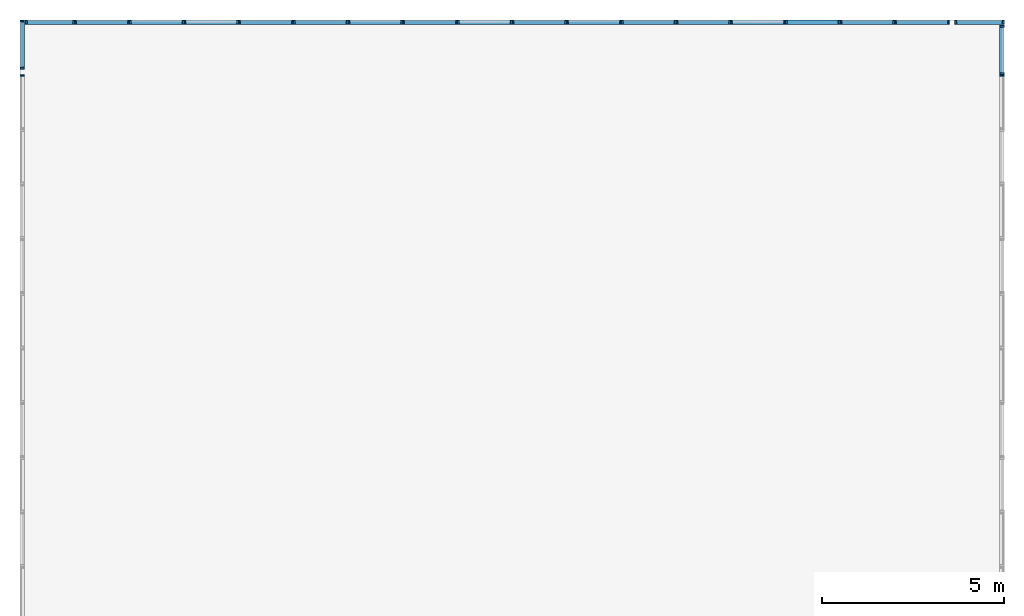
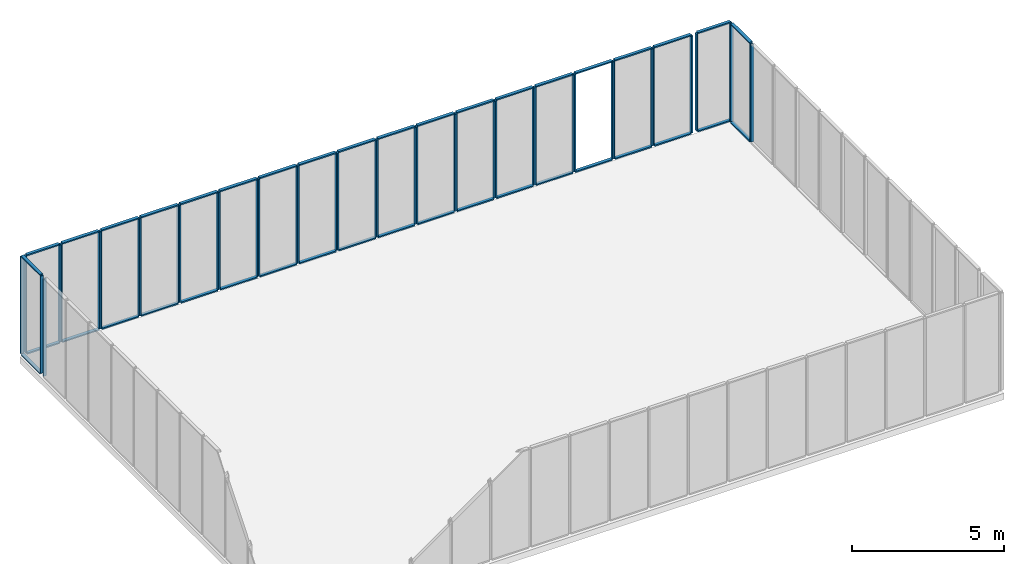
# One storey, part 3 of 4: 82 members.
"""IFC4 building model written with IfcOpenShell, lengths in metres."""

from ifc_helpers import new_model, si_unit, frame, origin_with_axes, place, context, subcontext, project, spatial, indexed_curve, outline, extrude, material, element, save


model = new_model("IFC4")

# Units and contexts
model_context = context("Model", 3, precision=1e-05, world=origin_with_axes())
body_context = subcontext(model_context, "Body", "Model", "MODEL_VIEW")
ifc_project = project(units=[si_unit("AREAUNIT", "SQUARE_METRE"), si_unit("VOLUMEUNIT", "CUBIC_METRE"), si_unit("LENGTHUNIT", "METRE")], contexts=[model_context])

# Site, building, storey
site = spatial("IfcSite", under=ifc_project, Name="Synthetic Site")
building = spatial("IfcBuilding", under=site, Name="Complex Tower")
storey_placement = place(None, frame((0.0, 0.0, 8.4), z_axis=(0.0, 0.0, 1.0), x_axis=(1.0, 0.0, 0.0)))
storey = spatial("IfcBuildingStorey", under=building, at=storey_placement, Name="L03", Elevation=8.4)

# Members
ifc_material = material(Name="Aluminium")
for number, where, z_axis, x_axis, name in (
    (1, (27.0, 16.45, 0.15000000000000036), (0.0, 0.0, 1.0), (6.123233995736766e-17, 1.0, 0.0), "CT-L03-E-011-MR"),
    (2, (27.0, 16.5, 0.15000000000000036), (0.0, 0.0, 1.0), (6.123233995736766e-17, 1.0, 0.0), "CT-L03-E-012-ML"),
    (3, (27.0, 17.8, 0.15000000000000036), (0.0, 0.0, 1.0), (6.123233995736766e-17, 1.0, 0.0), "CT-L03-E-012-MR"),
):
    element("IfcMember", number, at=place(storey_placement, frame(where, z_axis=z_axis, x_axis=x_axis)), inside=storey, material=ifc_material, Name=name, PredefinedType="MULLION", context=body_context, shape_type="SweptSolid", body=[
        extrude(outline(indexed_curve([(0.0, 0.0), (0.0, 0.12), (0.05, 0.12), (0.05, 0.0), (0.0, 0.0)], self_intersect=False)), origin_with_axes(), (0.0, 0.0, 1.0), 3.9000000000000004),
    ])
for number, where, z_axis, x_axis, name in (
    (4, (27.0, 16.55, 0.09999999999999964), (0.0, 0.0, 1.0), (6.123233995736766e-17, 1.0, 0.0), "CT-L03-E-012-FB"),
    (5, (27.0, 16.55, 4.050000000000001), (0.0, 0.0, 1.0), (6.123233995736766e-17, 1.0, 0.0), "CT-L03-E-012-FT"),
):
    element("IfcMember", number, at=place(storey_placement, frame(where, z_axis=z_axis, x_axis=x_axis)), inside=storey, material=ifc_material, Name=name, PredefinedType="MULLION", context=body_context, shape_type="SweptSolid", body=[
        extrude(outline(indexed_curve([(0.0, 0.0), (0.0, 0.12), (1.25, 0.12), (1.25, 0.0), (0.0, 0.0)], self_intersect=False)), origin_with_axes(), (0.0, 0.0, 1.0), 0.05),
    ])
for number, where, z_axis, x_axis, name in (
    (6, (27.0, 18.0, 0.15000000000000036), (0.0, 0.0, 1.0), (-1.0, 1.2246467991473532e-16, 0.0), "CT-L03-N-001-ML"),
    (7, (25.7, 18.0, 0.15000000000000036), (0.0, 0.0, 1.0), (-1.0, 1.2246467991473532e-16, 0.0), "CT-L03-N-001-MR"),
):
    element("IfcMember", number, at=place(storey_placement, frame(where, z_axis=z_axis, x_axis=x_axis)), inside=storey, material=ifc_material, Name=name, PredefinedType="MULLION", context=body_context, shape_type="SweptSolid", body=[
        extrude(outline(indexed_curve([(0.0, 0.0), (0.0, 0.12), (0.05, 0.12), (0.05, 0.0), (0.0, 0.0)], self_intersect=False)), origin_with_axes(), (0.0, 0.0, 1.0), 3.9000000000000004),
    ])
for number, where, z_axis, x_axis, name in (
    (8, (26.95, 18.0, 0.09999999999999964), (0.0, 0.0, 1.0), (-1.0, 1.2246467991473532e-16, 0.0), "CT-L03-N-001-FB"),
    (9, (26.95, 18.0, 4.050000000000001), (0.0, 0.0, 1.0), (-1.0, 1.2246467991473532e-16, 0.0), "CT-L03-N-001-FT"),
):
    element("IfcMember", number, at=place(storey_placement, frame(where, z_axis=z_axis, x_axis=x_axis)), inside=storey, material=ifc_material, Name=name, PredefinedType="MULLION", context=body_context, shape_type="SweptSolid", body=[
        extrude(outline(indexed_curve([(0.0, 0.0), (0.0, 0.12), (1.25, 0.12), (1.25, 0.0), (0.0, 0.0)], self_intersect=False)), origin_with_axes(), (0.0, 0.0, 1.0), 0.05),
    ])
for number, where, z_axis, x_axis, name in (
    (10, (25.5, 18.0, 0.15000000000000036), (0.0, 0.0, 1.0), (-1.0, 1.2246467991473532e-16, 0.0), "CT-L03-N-002-ML"),
    (11, (24.05, 18.0, 0.15000000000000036), (0.0, 0.0, 1.0), (-1.0, 1.2246467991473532e-16, 0.0), "CT-L03-N-002-MR"),
):
    element("IfcMember", number, at=place(storey_placement, frame(where, z_axis=z_axis, x_axis=x_axis)), inside=storey, material=ifc_material, Name=name, PredefinedType="MULLION", context=body_context, shape_type="SweptSolid", body=[
        extrude(outline(indexed_curve([(0.0, 0.0), (0.0, 0.12), (0.05, 0.12), (0.05, 0.0), (0.0, 0.0)], self_intersect=False)), origin_with_axes(), (0.0, 0.0, 1.0), 3.9000000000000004),
    ])
for number, where, z_axis, x_axis, name in (
    (12, (25.45, 18.0, 0.09999999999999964), (0.0, 0.0, 1.0), (-1.0, 1.2246467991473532e-16, 0.0), "CT-L03-N-002-FB"),
    (13, (25.45, 18.0, 4.050000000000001), (0.0, 0.0, 1.0), (-1.0, 1.2246467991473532e-16, 0.0), "CT-L03-N-002-FT"),
):
    element("IfcMember", number, at=place(storey_placement, frame(where, z_axis=z_axis, x_axis=x_axis)), inside=storey, material=ifc_material, Name=name, PredefinedType="MULLION", context=body_context, shape_type="SweptSolid", body=[
        extrude(outline(indexed_curve([(0.0, 0.0), (0.0, 0.12), (1.4, 0.12), (1.4, 0.0), (0.0, 0.0)], self_intersect=False)), origin_with_axes(), (0.0, 0.0, 1.0), 0.05),
    ])
for number, where, z_axis, x_axis, name in (
    (14, (24.0, 18.0, 0.15000000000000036), (0.0, 0.0, 1.0), (-1.0, 1.2246467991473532e-16, 0.0), "CT-L03-N-003-ML"),
    (15, (22.55, 18.0, 0.15000000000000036), (0.0, 0.0, 1.0), (-1.0, 1.2246467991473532e-16, 0.0), "CT-L03-N-003-MR"),
):
    element("IfcMember", number, at=place(storey_placement, frame(where, z_axis=z_axis, x_axis=x_axis)), inside=storey, material=ifc_material, Name=name, PredefinedType="MULLION", context=body_context, shape_type="SweptSolid", body=[
        extrude(outline(indexed_curve([(0.0, 0.0), (0.0, 0.12), (0.05, 0.12), (0.05, 0.0), (0.0, 0.0)], self_intersect=False)), origin_with_axes(), (0.0, 0.0, 1.0), 3.9000000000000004),
    ])
for number, where, z_axis, x_axis, name in (
    (16, (23.95, 18.0, 0.09999999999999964), (0.0, 0.0, 1.0), (-1.0, 1.2246467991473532e-16, 0.0), "CT-L03-N-003-FB"),
    (17, (23.95, 18.0, 4.050000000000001), (0.0, 0.0, 1.0), (-1.0, 1.2246467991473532e-16, 0.0), "CT-L03-N-003-FT"),
):
    element("IfcMember", number, at=place(storey_placement, frame(where, z_axis=z_axis, x_axis=x_axis)), inside=storey, material=ifc_material, Name=name, PredefinedType="MULLION", context=body_context, shape_type="SweptSolid", body=[
        extrude(outline(indexed_curve([(0.0, 0.0), (0.0, 0.12), (1.4, 0.12), (1.4, 0.0), (0.0, 0.0)], self_intersect=False)), origin_with_axes(), (0.0, 0.0, 1.0), 0.05),
    ])
for number, where, z_axis, x_axis, name in (
    (18, (22.5, 18.0, 0.15000000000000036), (0.0, 0.0, 1.0), (-1.0, 1.2246467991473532e-16, 0.0), "CT-L03-N-004-ML"),
    (19, (21.05, 18.0, 0.15000000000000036), (0.0, 0.0, 1.0), (-1.0, 1.2246467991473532e-16, 0.0), "CT-L03-N-004-MR"),
):
    element("IfcMember", number, at=place(storey_placement, frame(where, z_axis=z_axis, x_axis=x_axis)), inside=storey, material=ifc_material, Name=name, PredefinedType="MULLION", context=body_context, shape_type="SweptSolid", body=[
        extrude(outline(indexed_curve([(0.0, 0.0), (0.0, 0.12), (0.05, 0.12), (0.05, 0.0), (0.0, 0.0)], self_intersect=False)), origin_with_axes(), (0.0, 0.0, 1.0), 3.9000000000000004),
    ])
for number, where, z_axis, x_axis, name in (
    (20, (22.45, 18.0, 0.09999999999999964), (0.0, 0.0, 1.0), (-1.0, 1.2246467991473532e-16, 0.0), "CT-L03-N-004-FB"),
    (21, (22.45, 18.0, 4.050000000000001), (0.0, 0.0, 1.0), (-1.0, 1.2246467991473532e-16, 0.0), "CT-L03-N-004-FT"),
):
    element("IfcMember", number, at=place(storey_placement, frame(where, z_axis=z_axis, x_axis=x_axis)), inside=storey, material=ifc_material, Name=name, PredefinedType="MULLION", context=body_context, shape_type="SweptSolid", body=[
        extrude(outline(indexed_curve([(0.0, 0.0), (0.0, 0.12), (1.4, 0.12), (1.4, 0.0), (0.0, 0.0)], self_intersect=False)), origin_with_axes(), (0.0, 0.0, 1.0), 0.05),
    ])
for number, where, z_axis, x_axis, name in (
    (22, (21.0, 18.0, 0.15000000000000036), (0.0, 0.0, 1.0), (-1.0, 1.2246467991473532e-16, 0.0), "CT-L03-N-005-ML"),
    (23, (19.55, 18.0, 0.15000000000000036), (0.0, 0.0, 1.0), (-1.0, 1.2246467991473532e-16, 0.0), "CT-L03-N-005-MR"),
):
    element("IfcMember", number, at=place(storey_placement, frame(where, z_axis=z_axis, x_axis=x_axis)), inside=storey, material=ifc_material, Name=name, PredefinedType="MULLION", context=body_context, shape_type="SweptSolid", body=[
        extrude(outline(indexed_curve([(0.0, 0.0), (0.0, 0.12), (0.05, 0.12), (0.05, 0.0), (0.0, 0.0)], self_intersect=False)), origin_with_axes(), (0.0, 0.0, 1.0), 3.9000000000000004),
    ])
for number, where, z_axis, x_axis, name in (
    (24, (20.95, 18.0, 0.09999999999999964), (0.0, 0.0, 1.0), (-1.0, 1.2246467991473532e-16, 0.0), "CT-L03-N-005-FB"),
    (25, (20.95, 18.0, 4.050000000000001), (0.0, 0.0, 1.0), (-1.0, 1.2246467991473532e-16, 0.0), "CT-L03-N-005-FT"),
):
    element("IfcMember", number, at=place(storey_placement, frame(where, z_axis=z_axis, x_axis=x_axis)), inside=storey, material=ifc_material, Name=name, PredefinedType="MULLION", context=body_context, shape_type="SweptSolid", body=[
        extrude(outline(indexed_curve([(0.0, 0.0), (0.0, 0.12), (1.4, 0.12), (1.4, 0.0), (0.0, 0.0)], self_intersect=False)), origin_with_axes(), (0.0, 0.0, 1.0), 0.05),
    ])
for number, where, z_axis, x_axis, name in (
    (26, (19.5, 18.0, 0.15000000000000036), (0.0, 0.0, 1.0), (-1.0, 1.2246467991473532e-16, 0.0), "CT-L03-N-006-ML"),
    (27, (18.05, 18.0, 0.15000000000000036), (0.0, 0.0, 1.0), (-1.0, 1.2246467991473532e-16, 0.0), "CT-L03-N-006-MR"),
):
    element("IfcMember", number, at=place(storey_placement, frame(where, z_axis=z_axis, x_axis=x_axis)), inside=storey, material=ifc_material, Name=name, PredefinedType="MULLION", context=body_context, shape_type="SweptSolid", body=[
        extrude(outline(indexed_curve([(0.0, 0.0), (0.0, 0.12), (0.05, 0.12), (0.05, 0.0), (0.0, 0.0)], self_intersect=False)), origin_with_axes(), (0.0, 0.0, 1.0), 3.9000000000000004),
    ])
for number, where, z_axis, x_axis, name in (
    (28, (19.45, 18.0, 0.09999999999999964), (0.0, 0.0, 1.0), (-1.0, 1.2246467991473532e-16, 0.0), "CT-L03-N-006-FB"),
    (29, (19.45, 18.0, 4.050000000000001), (0.0, 0.0, 1.0), (-1.0, 1.2246467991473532e-16, 0.0), "CT-L03-N-006-FT"),
):
    element("IfcMember", number, at=place(storey_placement, frame(where, z_axis=z_axis, x_axis=x_axis)), inside=storey, material=ifc_material, Name=name, PredefinedType="MULLION", context=body_context, shape_type="SweptSolid", body=[
        extrude(outline(indexed_curve([(0.0, 0.0), (0.0, 0.12), (1.4, 0.12), (1.4, 0.0), (0.0, 0.0)], self_intersect=False)), origin_with_axes(), (0.0, 0.0, 1.0), 0.05),
    ])
for number, where, z_axis, x_axis, name in (
    (30, (18.0, 18.0, 0.15000000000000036), (0.0, 0.0, 1.0), (-1.0, 1.2246467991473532e-16, 0.0), "CT-L03-N-007-ML"),
    (31, (16.55, 18.0, 0.15000000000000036), (0.0, 0.0, 1.0), (-1.0, 1.2246467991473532e-16, 0.0), "CT-L03-N-007-MR"),
):
    element("IfcMember", number, at=place(storey_placement, frame(where, z_axis=z_axis, x_axis=x_axis)), inside=storey, material=ifc_material, Name=name, PredefinedType="MULLION", context=body_context, shape_type="SweptSolid", body=[
        extrude(outline(indexed_curve([(0.0, 0.0), (0.0, 0.12), (0.05, 0.12), (0.05, 0.0), (0.0, 0.0)], self_intersect=False)), origin_with_axes(), (0.0, 0.0, 1.0), 3.9000000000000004),
    ])
for number, where, z_axis, x_axis, name in (
    (32, (17.95, 18.0, 0.09999999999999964), (0.0, 0.0, 1.0), (-1.0, 1.2246467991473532e-16, 0.0), "CT-L03-N-007-FB"),
    (33, (17.95, 18.0, 4.050000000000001), (0.0, 0.0, 1.0), (-1.0, 1.2246467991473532e-16, 0.0), "CT-L03-N-007-FT"),
):
    element("IfcMember", number, at=place(storey_placement, frame(where, z_axis=z_axis, x_axis=x_axis)), inside=storey, material=ifc_material, Name=name, PredefinedType="MULLION", context=body_context, shape_type="SweptSolid", body=[
        extrude(outline(indexed_curve([(0.0, 0.0), (0.0, 0.12), (1.4, 0.12), (1.4, 0.0), (0.0, 0.0)], self_intersect=False)), origin_with_axes(), (0.0, 0.0, 1.0), 0.05),
    ])
for number, where, z_axis, x_axis, name in (
    (34, (16.5, 18.0, 0.15000000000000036), (0.0, 0.0, 1.0), (-1.0, 1.2246467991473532e-16, 0.0), "CT-L03-N-008-ML"),
    (35, (15.049999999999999, 18.0, 0.15000000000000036), (0.0, 0.0, 1.0), (-1.0, 1.2246467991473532e-16, 0.0), "CT-L03-N-008-MR"),
):
    element("IfcMember", number, at=place(storey_placement, frame(where, z_axis=z_axis, x_axis=x_axis)), inside=storey, material=ifc_material, Name=name, PredefinedType="MULLION", context=body_context, shape_type="SweptSolid", body=[
        extrude(outline(indexed_curve([(0.0, 0.0), (0.0, 0.12), (0.05, 0.12), (0.05, 0.0), (0.0, 0.0)], self_intersect=False)), origin_with_axes(), (0.0, 0.0, 1.0), 3.9000000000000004),
    ])
for number, where, z_axis, x_axis, name in (
    (36, (16.45, 18.0, 0.09999999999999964), (0.0, 0.0, 1.0), (-1.0, 1.2246467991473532e-16, 0.0), "CT-L03-N-008-FB"),
    (37, (16.45, 18.0, 4.050000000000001), (0.0, 0.0, 1.0), (-1.0, 1.2246467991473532e-16, 0.0), "CT-L03-N-008-FT"),
):
    element("IfcMember", number, at=place(storey_placement, frame(where, z_axis=z_axis, x_axis=x_axis)), inside=storey, material=ifc_material, Name=name, PredefinedType="MULLION", context=body_context, shape_type="SweptSolid", body=[
        extrude(outline(indexed_curve([(0.0, 0.0), (0.0, 0.12), (1.4, 0.12), (1.4, 0.0), (0.0, 0.0)], self_intersect=False)), origin_with_axes(), (0.0, 0.0, 1.0), 0.05),
    ])
for number, where, z_axis, x_axis, name in (
    (38, (15.0, 18.0, 0.15000000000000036), (0.0, 0.0, 1.0), (-1.0, 1.2246467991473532e-16, 0.0), "CT-L03-N-009-ML"),
    (39, (13.549999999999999, 18.0, 0.15000000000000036), (0.0, 0.0, 1.0), (-1.0, 1.2246467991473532e-16, 0.0), "CT-L03-N-009-MR"),
):
    element("IfcMember", number, at=place(storey_placement, frame(where, z_axis=z_axis, x_axis=x_axis)), inside=storey, material=ifc_material, Name=name, PredefinedType="MULLION", context=body_context, shape_type="SweptSolid", body=[
        extrude(outline(indexed_curve([(0.0, 0.0), (0.0, 0.12), (0.05, 0.12), (0.05, 0.0), (0.0, 0.0)], self_intersect=False)), origin_with_axes(), (0.0, 0.0, 1.0), 3.9000000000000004),
    ])
for number, where, z_axis, x_axis, name in (
    (40, (14.95, 18.0, 0.09999999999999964), (0.0, 0.0, 1.0), (-1.0, 1.2246467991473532e-16, 0.0), "CT-L03-N-009-FB"),
    (41, (14.95, 18.0, 4.050000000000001), (0.0, 0.0, 1.0), (-1.0, 1.2246467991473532e-16, 0.0), "CT-L03-N-009-FT"),
):
    element("IfcMember", number, at=place(storey_placement, frame(where, z_axis=z_axis, x_axis=x_axis)), inside=storey, material=ifc_material, Name=name, PredefinedType="MULLION", context=body_context, shape_type="SweptSolid", body=[
        extrude(outline(indexed_curve([(0.0, 0.0), (0.0, 0.12), (1.4, 0.12), (1.4, 0.0), (0.0, 0.0)], self_intersect=False)), origin_with_axes(), (0.0, 0.0, 1.0), 0.05),
    ])
for number, where, z_axis, x_axis, name in (
    (42, (13.5, 18.0, 0.15000000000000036), (0.0, 0.0, 1.0), (-1.0, 1.2246467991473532e-16, 0.0), "CT-L03-N-010-ML"),
    (43, (12.049999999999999, 18.0, 0.15000000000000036), (0.0, 0.0, 1.0), (-1.0, 1.2246467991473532e-16, 0.0), "CT-L03-N-010-MR"),
):
    element("IfcMember", number, at=place(storey_placement, frame(where, z_axis=z_axis, x_axis=x_axis)), inside=storey, material=ifc_material, Name=name, PredefinedType="MULLION", context=body_context, shape_type="SweptSolid", body=[
        extrude(outline(indexed_curve([(0.0, 0.0), (0.0, 0.12), (0.05, 0.12), (0.05, 0.0), (0.0, 0.0)], self_intersect=False)), origin_with_axes(), (0.0, 0.0, 1.0), 3.9000000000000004),
    ])
for number, where, z_axis, x_axis, name in (
    (44, (13.45, 18.0, 0.09999999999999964), (0.0, 0.0, 1.0), (-1.0, 1.2246467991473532e-16, 0.0), "CT-L03-N-010-FB"),
    (45, (13.45, 18.0, 4.050000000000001), (0.0, 0.0, 1.0), (-1.0, 1.2246467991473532e-16, 0.0), "CT-L03-N-010-FT"),
):
    element("IfcMember", number, at=place(storey_placement, frame(where, z_axis=z_axis, x_axis=x_axis)), inside=storey, material=ifc_material, Name=name, PredefinedType="MULLION", context=body_context, shape_type="SweptSolid", body=[
        extrude(outline(indexed_curve([(0.0, 0.0), (0.0, 0.12), (1.4, 0.12), (1.4, 0.0), (0.0, 0.0)], self_intersect=False)), origin_with_axes(), (0.0, 0.0, 1.0), 0.05),
    ])
for number, where, z_axis, x_axis, name in (
    (46, (12.0, 18.000000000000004, 0.15000000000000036), (0.0, 0.0, 1.0), (-1.0, 1.2246467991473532e-16, 0.0), "CT-L03-N-011-ML"),
    (47, (10.549999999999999, 18.000000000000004, 0.15000000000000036), (0.0, 0.0, 1.0), (-1.0, 1.2246467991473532e-16, 0.0), "CT-L03-N-011-MR"),
):
    element("IfcMember", number, at=place(storey_placement, frame(where, z_axis=z_axis, x_axis=x_axis)), inside=storey, material=ifc_material, Name=name, PredefinedType="MULLION", context=body_context, shape_type="SweptSolid", body=[
        extrude(outline(indexed_curve([(0.0, 0.0), (0.0, 0.12), (0.05, 0.12), (0.05, 0.0), (0.0, 0.0)], self_intersect=False)), origin_with_axes(), (0.0, 0.0, 1.0), 3.9000000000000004),
    ])
for number, where, z_axis, x_axis, name in (
    (48, (11.95, 18.000000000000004, 0.09999999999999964), (0.0, 0.0, 1.0), (-1.0, 1.2246467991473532e-16, 0.0), "CT-L03-N-011-FB"),
    (49, (11.95, 18.000000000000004, 4.050000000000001), (0.0, 0.0, 1.0), (-1.0, 1.2246467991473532e-16, 0.0), "CT-L03-N-011-FT"),
):
    element("IfcMember", number, at=place(storey_placement, frame(where, z_axis=z_axis, x_axis=x_axis)), inside=storey, material=ifc_material, Name=name, PredefinedType="MULLION", context=body_context, shape_type="SweptSolid", body=[
        extrude(outline(indexed_curve([(0.0, 0.0), (0.0, 0.12), (1.4, 0.12), (1.4, 0.0), (0.0, 0.0)], self_intersect=False)), origin_with_axes(), (0.0, 0.0, 1.0), 0.05),
    ])
for number, where, z_axis, x_axis, name in (
    (50, (10.5, 18.000000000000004, 0.15000000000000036), (0.0, 0.0, 1.0), (-1.0, 1.2246467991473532e-16, 0.0), "CT-L03-N-012-ML"),
    (51, (9.049999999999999, 18.000000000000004, 0.15000000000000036), (0.0, 0.0, 1.0), (-1.0, 1.2246467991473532e-16, 0.0), "CT-L03-N-012-MR"),
):
    element("IfcMember", number, at=place(storey_placement, frame(where, z_axis=z_axis, x_axis=x_axis)), inside=storey, material=ifc_material, Name=name, PredefinedType="MULLION", context=body_context, shape_type="SweptSolid", body=[
        extrude(outline(indexed_curve([(0.0, 0.0), (0.0, 0.12), (0.05, 0.12), (0.05, 0.0), (0.0, 0.0)], self_intersect=False)), origin_with_axes(), (0.0, 0.0, 1.0), 3.9000000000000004),
    ])
for number, where, z_axis, x_axis, name in (
    (52, (10.45, 18.000000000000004, 0.09999999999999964), (0.0, 0.0, 1.0), (-1.0, 1.2246467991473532e-16, 0.0), "CT-L03-N-012-FB"),
    (53, (10.45, 18.000000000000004, 4.050000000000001), (0.0, 0.0, 1.0), (-1.0, 1.2246467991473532e-16, 0.0), "CT-L03-N-012-FT"),
):
    element("IfcMember", number, at=place(storey_placement, frame(where, z_axis=z_axis, x_axis=x_axis)), inside=storey, material=ifc_material, Name=name, PredefinedType="MULLION", context=body_context, shape_type="SweptSolid", body=[
        extrude(outline(indexed_curve([(0.0, 0.0), (0.0, 0.12), (1.4, 0.12), (1.4, 0.0), (0.0, 0.0)], self_intersect=False)), origin_with_axes(), (0.0, 0.0, 1.0), 0.05),
    ])
for number, where, z_axis, x_axis, name in (
    (54, (9.0, 18.000000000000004, 0.15000000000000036), (0.0, 0.0, 1.0), (-1.0, 1.2246467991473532e-16, 0.0), "CT-L03-N-013-ML"),
    (55, (7.549999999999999, 18.000000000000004, 0.15000000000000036), (0.0, 0.0, 1.0), (-1.0, 1.2246467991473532e-16, 0.0), "CT-L03-N-013-MR"),
):
    element("IfcMember", number, at=place(storey_placement, frame(where, z_axis=z_axis, x_axis=x_axis)), inside=storey, material=ifc_material, Name=name, PredefinedType="MULLION", context=body_context, shape_type="SweptSolid", body=[
        extrude(outline(indexed_curve([(0.0, 0.0), (0.0, 0.12), (0.05, 0.12), (0.05, 0.0), (0.0, 0.0)], self_intersect=False)), origin_with_axes(), (0.0, 0.0, 1.0), 3.9000000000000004),
    ])
for number, where, z_axis, x_axis, name in (
    (56, (8.95, 18.000000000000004, 0.09999999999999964), (0.0, 0.0, 1.0), (-1.0, 1.2246467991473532e-16, 0.0), "CT-L03-N-013-FB"),
    (57, (8.95, 18.000000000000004, 4.050000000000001), (0.0, 0.0, 1.0), (-1.0, 1.2246467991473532e-16, 0.0), "CT-L03-N-013-FT"),
):
    element("IfcMember", number, at=place(storey_placement, frame(where, z_axis=z_axis, x_axis=x_axis)), inside=storey, material=ifc_material, Name=name, PredefinedType="MULLION", context=body_context, shape_type="SweptSolid", body=[
        extrude(outline(indexed_curve([(0.0, 0.0), (0.0, 0.12), (1.4, 0.12), (1.4, 0.0), (0.0, 0.0)], self_intersect=False)), origin_with_axes(), (0.0, 0.0, 1.0), 0.05),
    ])
for number, where, z_axis, x_axis, name in (
    (58, (7.499999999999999, 18.000000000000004, 0.15000000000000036), (0.0, 0.0, 1.0), (-1.0, 1.2246467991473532e-16, 0.0), "CT-L03-N-014-ML"),
    (59, (6.049999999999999, 18.000000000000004, 0.15000000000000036), (0.0, 0.0, 1.0), (-1.0, 1.2246467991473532e-16, 0.0), "CT-L03-N-014-MR"),
):
    element("IfcMember", number, at=place(storey_placement, frame(where, z_axis=z_axis, x_axis=x_axis)), inside=storey, material=ifc_material, Name=name, PredefinedType="MULLION", context=body_context, shape_type="SweptSolid", body=[
        extrude(outline(indexed_curve([(0.0, 0.0), (0.0, 0.12), (0.05, 0.12), (0.05, 0.0), (0.0, 0.0)], self_intersect=False)), origin_with_axes(), (0.0, 0.0, 1.0), 3.9000000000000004),
    ])
for number, where, z_axis, x_axis, name in (
    (60, (7.449999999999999, 18.000000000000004, 0.09999999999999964), (0.0, 0.0, 1.0), (-1.0, 1.2246467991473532e-16, 0.0), "CT-L03-N-014-FB"),
    (61, (7.449999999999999, 18.000000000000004, 4.050000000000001), (0.0, 0.0, 1.0), (-1.0, 1.2246467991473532e-16, 0.0), "CT-L03-N-014-FT"),
):
    element("IfcMember", number, at=place(storey_placement, frame(where, z_axis=z_axis, x_axis=x_axis)), inside=storey, material=ifc_material, Name=name, PredefinedType="MULLION", context=body_context, shape_type="SweptSolid", body=[
        extrude(outline(indexed_curve([(0.0, 0.0), (0.0, 0.12), (1.4, 0.12), (1.4, 0.0), (0.0, 0.0)], self_intersect=False)), origin_with_axes(), (0.0, 0.0, 1.0), 0.05),
    ])
for number, where, z_axis, x_axis, name in (
    (62, (5.999999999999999, 18.000000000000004, 0.15000000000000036), (0.0, 0.0, 1.0), (-1.0, 1.2246467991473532e-16, 0.0), "CT-L03-N-015-ML"),
    (63, (4.549999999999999, 18.000000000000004, 0.15000000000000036), (0.0, 0.0, 1.0), (-1.0, 1.2246467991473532e-16, 0.0), "CT-L03-N-015-MR"),
):
    element("IfcMember", number, at=place(storey_placement, frame(where, z_axis=z_axis, x_axis=x_axis)), inside=storey, material=ifc_material, Name=name, PredefinedType="MULLION", context=body_context, shape_type="SweptSolid", body=[
        extrude(outline(indexed_curve([(0.0, 0.0), (0.0, 0.12), (0.05, 0.12), (0.05, 0.0), (0.0, 0.0)], self_intersect=False)), origin_with_axes(), (0.0, 0.0, 1.0), 3.9000000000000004),
    ])
for number, where, z_axis, x_axis, name in (
    (64, (5.949999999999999, 18.000000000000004, 0.09999999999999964), (0.0, 0.0, 1.0), (-1.0, 1.2246467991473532e-16, 0.0), "CT-L03-N-015-FB"),
    (65, (5.949999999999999, 18.000000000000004, 4.050000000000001), (0.0, 0.0, 1.0), (-1.0, 1.2246467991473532e-16, 0.0), "CT-L03-N-015-FT"),
):
    element("IfcMember", number, at=place(storey_placement, frame(where, z_axis=z_axis, x_axis=x_axis)), inside=storey, material=ifc_material, Name=name, PredefinedType="MULLION", context=body_context, shape_type="SweptSolid", body=[
        extrude(outline(indexed_curve([(0.0, 0.0), (0.0, 0.12), (1.4, 0.12), (1.4, 0.0), (0.0, 0.0)], self_intersect=False)), origin_with_axes(), (0.0, 0.0, 1.0), 0.05),
    ])
for number, where, z_axis, x_axis, name in (
    (66, (4.499999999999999, 18.000000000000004, 0.15000000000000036), (0.0, 0.0, 1.0), (-1.0, 1.2246467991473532e-16, 0.0), "CT-L03-N-016-ML"),
    (67, (3.0499999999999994, 18.000000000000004, 0.15000000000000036), (0.0, 0.0, 1.0), (-1.0, 1.2246467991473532e-16, 0.0), "CT-L03-N-016-MR"),
):
    element("IfcMember", number, at=place(storey_placement, frame(where, z_axis=z_axis, x_axis=x_axis)), inside=storey, material=ifc_material, Name=name, PredefinedType="MULLION", context=body_context, shape_type="SweptSolid", body=[
        extrude(outline(indexed_curve([(0.0, 0.0), (0.0, 0.12), (0.05, 0.12), (0.05, 0.0), (0.0, 0.0)], self_intersect=False)), origin_with_axes(), (0.0, 0.0, 1.0), 3.9000000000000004),
    ])
for number, where, z_axis, x_axis, name in (
    (68, (4.449999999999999, 18.000000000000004, 0.09999999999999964), (0.0, 0.0, 1.0), (-1.0, 1.2246467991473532e-16, 0.0), "CT-L03-N-016-FB"),
    (69, (4.449999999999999, 18.000000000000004, 4.050000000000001), (0.0, 0.0, 1.0), (-1.0, 1.2246467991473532e-16, 0.0), "CT-L03-N-016-FT"),
):
    element("IfcMember", number, at=place(storey_placement, frame(where, z_axis=z_axis, x_axis=x_axis)), inside=storey, material=ifc_material, Name=name, PredefinedType="MULLION", context=body_context, shape_type="SweptSolid", body=[
        extrude(outline(indexed_curve([(0.0, 0.0), (0.0, 0.12), (1.4, 0.12), (1.4, 0.0), (0.0, 0.0)], self_intersect=False)), origin_with_axes(), (0.0, 0.0, 1.0), 0.05),
    ])
for number, where, z_axis, x_axis, name in (
    (70, (2.999999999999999, 18.000000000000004, 0.15000000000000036), (0.0, 0.0, 1.0), (-1.0, 1.2246467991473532e-16, 0.0), "CT-L03-N-017-ML"),
    (71, (1.5499999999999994, 18.000000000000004, 0.15000000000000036), (0.0, 0.0, 1.0), (-1.0, 1.2246467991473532e-16, 0.0), "CT-L03-N-017-MR"),
):
    element("IfcMember", number, at=place(storey_placement, frame(where, z_axis=z_axis, x_axis=x_axis)), inside=storey, material=ifc_material, Name=name, PredefinedType="MULLION", context=body_context, shape_type="SweptSolid", body=[
        extrude(outline(indexed_curve([(0.0, 0.0), (0.0, 0.12), (0.05, 0.12), (0.05, 0.0), (0.0, 0.0)], self_intersect=False)), origin_with_axes(), (0.0, 0.0, 1.0), 3.9000000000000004),
    ])
for number, where, z_axis, x_axis, name in (
    (72, (2.9499999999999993, 18.000000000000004, 0.09999999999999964), (0.0, 0.0, 1.0), (-1.0, 1.2246467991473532e-16, 0.0), "CT-L03-N-017-FB"),
    (73, (2.9499999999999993, 18.000000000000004, 4.050000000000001), (0.0, 0.0, 1.0), (-1.0, 1.2246467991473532e-16, 0.0), "CT-L03-N-017-FT"),
):
    element("IfcMember", number, at=place(storey_placement, frame(where, z_axis=z_axis, x_axis=x_axis)), inside=storey, material=ifc_material, Name=name, PredefinedType="MULLION", context=body_context, shape_type="SweptSolid", body=[
        extrude(outline(indexed_curve([(0.0, 0.0), (0.0, 0.12), (1.4, 0.12), (1.4, 0.0), (0.0, 0.0)], self_intersect=False)), origin_with_axes(), (0.0, 0.0, 1.0), 0.05),
    ])
for number, where, z_axis, x_axis, name in (
    (74, (1.4999999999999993, 18.000000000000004, 0.15000000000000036), (0.0, 0.0, 1.0), (-1.0, 1.2246467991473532e-16, 0.0), "CT-L03-N-018-ML"),
    (75, (0.1999999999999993, 18.000000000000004, 0.15000000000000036), (0.0, 0.0, 1.0), (-1.0, 1.2246467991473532e-16, 0.0), "CT-L03-N-018-MR"),
):
    element("IfcMember", number, at=place(storey_placement, frame(where, z_axis=z_axis, x_axis=x_axis)), inside=storey, material=ifc_material, Name=name, PredefinedType="MULLION", context=body_context, shape_type="SweptSolid", body=[
        extrude(outline(indexed_curve([(0.0, 0.0), (0.0, 0.12), (0.05, 0.12), (0.05, 0.0), (0.0, 0.0)], self_intersect=False)), origin_with_axes(), (0.0, 0.0, 1.0), 3.9000000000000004),
    ])
for number, where, z_axis, x_axis, name in (
    (76, (1.4499999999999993, 18.000000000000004, 0.09999999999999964), (0.0, 0.0, 1.0), (-1.0, 1.2246467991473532e-16, 0.0), "CT-L03-N-018-FB"),
    (77, (1.4499999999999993, 18.000000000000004, 4.050000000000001), (0.0, 0.0, 1.0), (-1.0, 1.2246467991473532e-16, 0.0), "CT-L03-N-018-FT"),
):
    element("IfcMember", number, at=place(storey_placement, frame(where, z_axis=z_axis, x_axis=x_axis)), inside=storey, material=ifc_material, Name=name, PredefinedType="MULLION", context=body_context, shape_type="SweptSolid", body=[
        extrude(outline(indexed_curve([(0.0, 0.0), (0.0, 0.12), (1.25, 0.12), (1.25, 0.0), (0.0, 0.0)], self_intersect=False)), origin_with_axes(), (0.0, 0.0, 1.0), 0.05),
    ])
for number, where, z_axis, x_axis, name in (
    (78, (0.0, 18.0, 0.15000000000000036), (0.0, 0.0, 1.0), (-1.8369701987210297e-16, -1.0, 0.0), "CT-L03-W-001-ML"),
    (79, (-2.3880612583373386e-16, 16.7, 0.15000000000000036), (0.0, 0.0, 1.0), (-1.8369701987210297e-16, -1.0, 0.0), "CT-L03-W-001-MR"),
):
    element("IfcMember", number, at=place(storey_placement, frame(where, z_axis=z_axis, x_axis=x_axis)), inside=storey, material=ifc_material, Name=name, PredefinedType="MULLION", context=body_context, shape_type="SweptSolid", body=[
        extrude(outline(indexed_curve([(0.0, 0.0), (0.0, 0.12), (0.05, 0.12), (0.05, 0.0), (0.0, 0.0)], self_intersect=False)), origin_with_axes(), (0.0, 0.0, 1.0), 3.9000000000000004),
    ])
for number, where, z_axis, x_axis, name in (
    (80, (-9.184850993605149e-18, 17.95, 0.09999999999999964), (0.0, 0.0, 1.0), (-1.8369701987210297e-16, -1.0, 0.0), "CT-L03-W-001-FB"),
    (81, (-9.184850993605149e-18, 17.95, 4.050000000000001), (0.0, 0.0, 1.0), (-1.8369701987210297e-16, -1.0, 0.0), "CT-L03-W-001-FT"),
):
    element("IfcMember", number, at=place(storey_placement, frame(where, z_axis=z_axis, x_axis=x_axis)), inside=storey, material=ifc_material, Name=name, PredefinedType="MULLION", context=body_context, shape_type="SweptSolid", body=[
        extrude(outline(indexed_curve([(0.0, 0.0), (0.0, 0.12), (1.25, 0.12), (1.25, 0.0), (0.0, 0.0)], self_intersect=False)), origin_with_axes(), (0.0, 0.0, 1.0), 0.05),
    ])
member_placement = place(storey_placement, frame((-2.7554552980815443e-16, 16.5, 0.15000000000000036), z_axis=(0.0, 0.0, 1.0), x_axis=(-1.8369701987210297e-16, -1.0, 0.0)))
element("IfcMember", 82, at=member_placement, inside=storey, material=ifc_material, Name="CT-L03-W-002-ML", PredefinedType="MULLION", context=body_context, shape_type="SweptSolid", body=[
    extrude(outline(indexed_curve([(0.0, 0.0), (0.0, 0.12), (0.05, 0.12), (0.05, 0.0), (0.0, 0.0)], self_intersect=False)), origin_with_axes(), (0.0, 0.0, 1.0), 3.9000000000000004),
])

save(model, "model.ifc")
